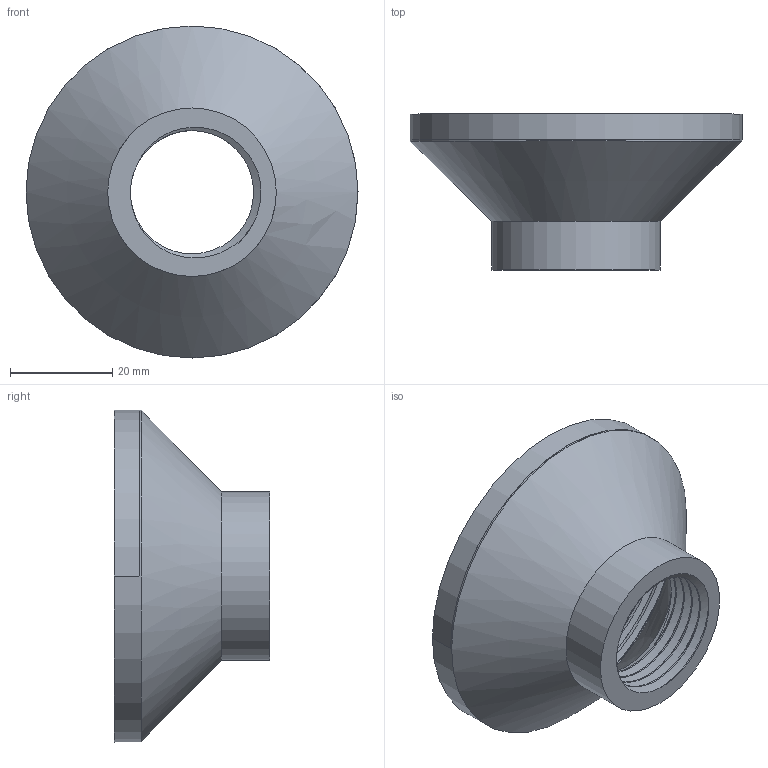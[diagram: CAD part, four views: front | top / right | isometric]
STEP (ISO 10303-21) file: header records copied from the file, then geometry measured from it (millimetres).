
FILE_DESCRIPTION(/* description */ (''),/* implementation_level */ '2;1');
FILE_NAME(/* name */ '/Users/josh/Downloads/laminar/laminar.step',/* time_stamp */ '2020-08-31T13:09:16-06:00',/* author */ (''),/* organization */ (''),/* preprocessor_version */ 'ST-DEVELOPER v18.1',/* originating_system */ 'Autodesk Translation Framework v9.3.0.1241',/* authorisation */ '');
FILE_SCHEMA (('AUTOMOTIVE_DESIGN { 1 0 10303 214 3 1 1 }'));
Length unit declared in the file: millimetre
Products named in the file (2): Laminar Flow; Component5
Assembly tree (1 placements, depth 2):
  Laminar Flow
    Component5
Bounding box: 65 x 30.53 x 65 mm (x, y, z)
Volume: 12509.2 mm3; surface area: 12485.8 mm2
Topology: 1 solids, 1 shells, 37 faces, 97 edges, 63 vertices
Faces by surface type: cylinder 23, bspline 9, plane 4, cone 1
Full cylindrical faces by diameter (mm): 24.118 x4, 26.988 x4, 33 x1, 60 x1, 60.022 x1, 62.262 x2, 65 x1
Entity records: 3454 total; most frequent: CARTESIAN_POINT 2595, ORIENTED_EDGE 194, DIRECTION 138, EDGE_CURVE 97, VERTEX_POINT 63, AXIS2_PLACEMENT_3D 57, EDGE_LOOP 40, FACE_OUTER_BOUND 37
